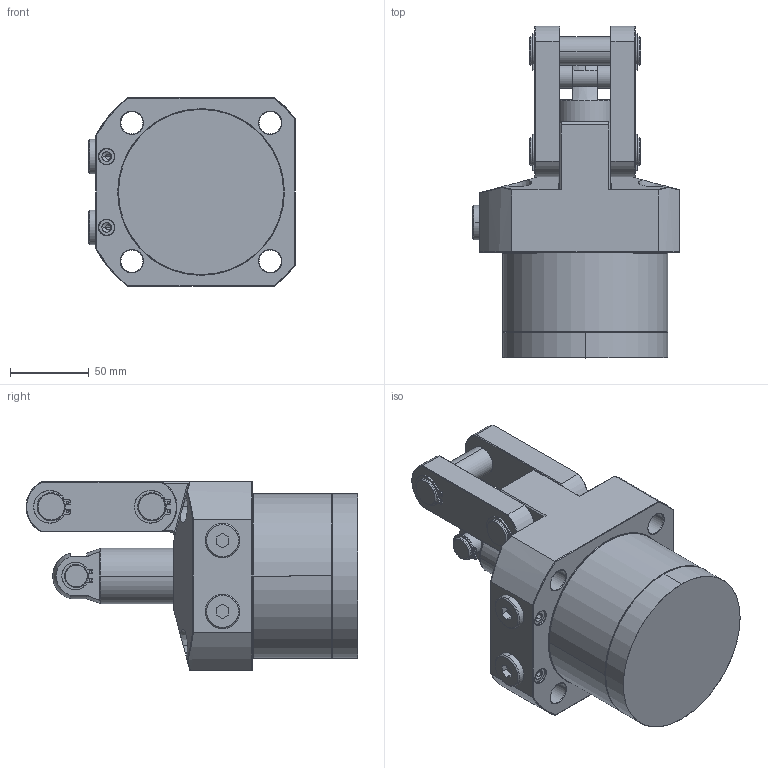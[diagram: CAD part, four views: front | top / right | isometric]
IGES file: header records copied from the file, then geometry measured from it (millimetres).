
Start section: SolidWorks IGES file using analytic representation for surfaces
Global section: file name: D:\abhilash\nijil\cylinder\LKA Series\con v lka\105lk\lk105cr\105 CR PT\0402-1052.IGS; native system: SolidWorks 2010; preprocessor: SolidWorks 2010; author: nidheesh; date: 130730.102145; units: millimetre
Bounding box: 131.5 x 210.94 x 120 mm (x, y, z)
Surface area: 124066.1 mm2 (no closed solid volume)
Topology: 0 solids, 0 shells, 329 faces, 4589 edges, 4588 vertices
Faces by surface type: revolution 197, bspline 132
